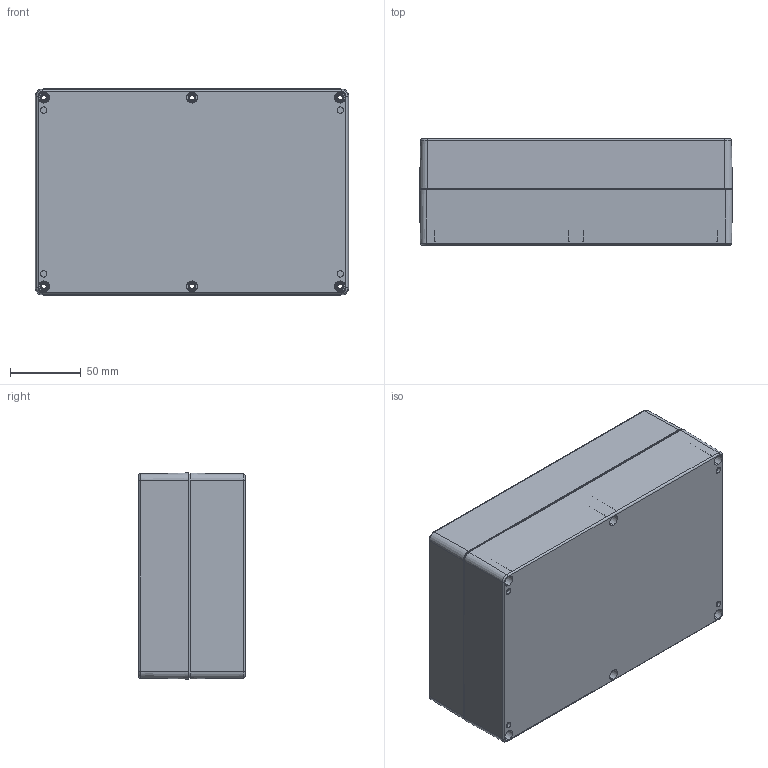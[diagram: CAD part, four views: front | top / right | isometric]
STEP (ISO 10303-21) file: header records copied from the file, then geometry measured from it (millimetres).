
FILE_DESCRIPTION (( 'STEP AP203' ), '1' );
FILE_NAME ('PE258.STEP', '2020-01-14T06:39:31', ( '' ), ( '' ), 'SwSTEP 2.0', 'SolidWorks 2020', '' );
FILE_SCHEMA (( 'CONFIG_CONTROL_DESIGN' ));
Length unit declared in the file: millimetre
Products named in the file (4): PE258
Assembly tree (3 placements, depth 2):
  PE258
    PE258
    PE258
    PE258
Bounding box: 221.97 x 75.2 x 146.1 mm (x, y, z)
Volume: 463669.7 mm3; surface area: 323076.6 mm2
Topology: 13 solids, 13 shells, 1727 faces, 4587 edges, 2970 vertices
Faces by surface type: bspline 590, cylinder 474, plane 378, cone 277, torus 8
Entity records: 60181 total; most frequent: CARTESIAN_POINT 20096, ORIENTED_EDGE 9126, DIRECTION 7179, EDGE_CURVE 4563, VERTEX_POINT 2970, AXIS2_PLACEMENT_3D 2615, VECTOR 1949, LINE 1949
